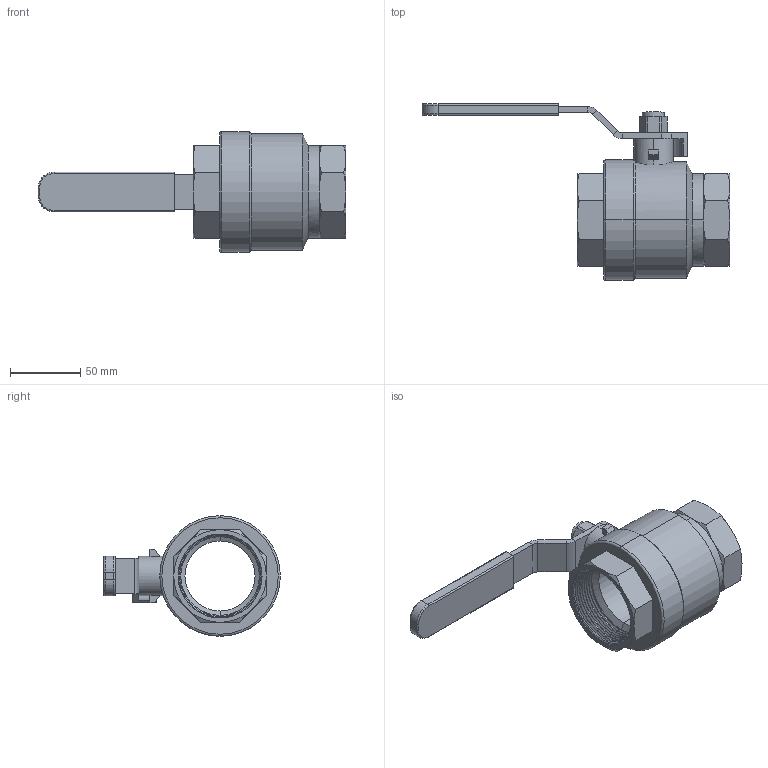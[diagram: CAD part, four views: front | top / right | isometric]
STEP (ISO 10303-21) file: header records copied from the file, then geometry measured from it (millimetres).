
FILE_DESCRIPTION (( 'STEP AP203' ), '1' );
FILE_NAME ('KP_14-050.step', '2011-08-08T12:05:05', ( '' ), ( '' ), 'SwSTEP 2.0', 'SolidWorks 2011', '' );
FILE_SCHEMA (( 'CONFIG_CONTROL_DESIGN' ));
Length unit declared in the file: millimetre
Products named in the file (1): KP_14-050
Bounding box: 219.5 x 126 x 86 mm (x, y, z)
Volume: 314698.8 mm3; surface area: 74799 mm2
Topology: 2 solids, 2 shells, 328 faces, 729 edges, 415 vertices
Faces by surface type: cone 134, plane 77, cylinder 73, torus 44
Entity records: 9392 total; most frequent: CARTESIAN_POINT 2006, DIRECTION 1653, ORIENTED_EDGE 1458, EDGE_CURVE 729, AXIS2_PLACEMENT_3D 674, VERTEX_POINT 415, CIRCLE 345, EDGE_LOOP 342
